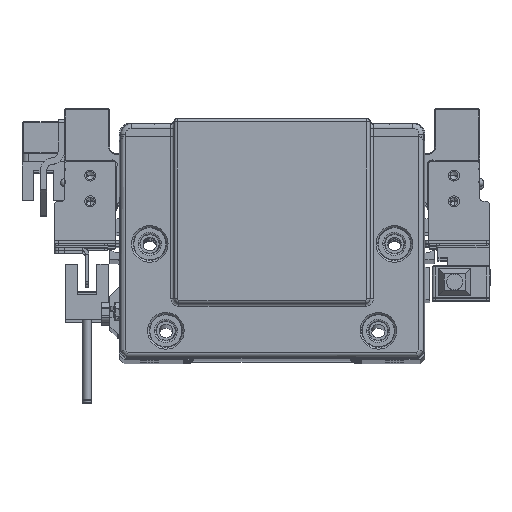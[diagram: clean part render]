
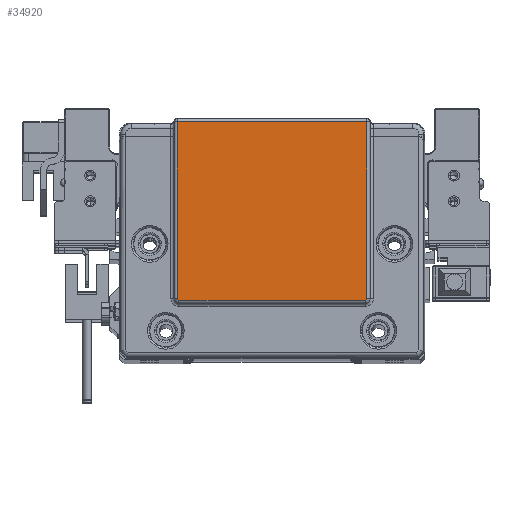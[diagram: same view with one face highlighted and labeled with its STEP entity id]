
A CAD part, top view. The second image highlights one B-rep face of the part: STEP entity #34920.
In plain terms, the highlighted planar face has unit normal (0, 0, 1) as drawn and (0, 0, -1) by its records, which use the part's own axes.
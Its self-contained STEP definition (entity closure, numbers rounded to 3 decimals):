
#779 = DIRECTION ( 'NONE',  ( -1., 0., 0. ) ) ;
#802 = CARTESIAN_POINT ( 'NONE',  ( -29.294, -19.08, -2. ) ) ;
#2013 = CARTESIAN_POINT ( 'NONE',  ( -29.435, -18.801, -2. ) ) ;
#3183 = CARTESIAN_POINT ( 'NONE',  ( -28.935, -19.232, -2. ) ) ;
#3542 = CARTESIAN_POINT ( 'NONE',  ( 29.268, -19.105, -2. ) ) ;
#4314 = CARTESIAN_POINT ( 'NONE',  ( 29.399, -18.919, -2. ) ) ;
#9228 = CARTESIAN_POINT ( 'NONE',  ( 29.354, -19.006, -2. ) ) ;
#9497 = ORIENTED_EDGE ( 'NONE', *, *, #23639, .T. ) ;
#10006 = EDGE_CURVE ( 'NONE', #54061, #18232, #61392, .T. ) ;
#10420 = CARTESIAN_POINT ( 'NONE',  ( 29.397, -18.923, -2. ) ) ;
#10924 = ORIENTED_EDGE ( 'NONE', *, *, #18657, .F. ) ;
#11924 = CARTESIAN_POINT ( 'NONE',  ( 28.935, -19.232, -2. ) ) ;
#12973 = CARTESIAN_POINT ( 'NONE',  ( -29.36, -18.998, -2. ) ) ;
#13722 = ORIENTED_EDGE ( 'NONE', *, *, #70362, .T. ) ;
#14264 = EDGE_LOOP ( 'NONE', ( #9497, #51127, #48508, #65430, #13722, #10924 ) ) ;
#14973 = CARTESIAN_POINT ( 'NONE',  ( -29.226, -19.14, -2. ) ) ;
#15319 = CARTESIAN_POINT ( 'NONE',  ( 29.247, -19.124, -2. ) ) ;
#15711 = CARTESIAN_POINT ( 'NONE',  ( 29.296, -19.079, -2. ) ) ;
#16111 = CARTESIAN_POINT ( 'NONE',  ( 29.435, -18.785, -2. ) ) ;
#18232 = VERTEX_POINT ( 'NONE', #45031 ) ;
#18657 = EDGE_CURVE ( 'NONE', #38832, #26460, #32303, .T. ) ;
#19037 = PLANE ( 'NONE',  #40669 ) ;
#19458 = CARTESIAN_POINT ( 'NONE',  ( -29.266, -19.109, -2. ) ) ;
#21397 = CARTESIAN_POINT ( 'NONE',  ( 29.378, -18.966, -2. ) ) ;
#21800 = CARTESIAN_POINT ( 'NONE',  ( 29.286, -19.089, -2. ) ) ;
#22181 = CARTESIAN_POINT ( 'NONE',  ( 29.283, -19.092, -2. ) ) ;
#23639 = EDGE_CURVE ( 'NONE', #38832, #54061, #54941, .T. ) ;
#23728 = CARTESIAN_POINT ( 'NONE',  ( 29.435, 0., -2. ) ) ;
#25113 = CARTESIAN_POINT ( 'NONE',  ( -29.326, -19.044, -2. ) ) ;
#25527 = CARTESIAN_POINT ( 'NONE',  ( -29.292, -19.083, -2. ) ) ;
#25859 = CARTESIAN_POINT ( 'NONE',  ( 29.003, -19.232, -2. ) ) ;
#26460 = VERTEX_POINT ( 'NONE', #42254 ) ;
#27118 = CARTESIAN_POINT ( 'NONE',  ( -29.209, -19.151, -2. ) ) ;
#27167 = DIRECTION ( 'NONE',  ( -1., 0., 0. ) ) ;
#27445 = CARTESIAN_POINT ( 'NONE',  ( 29.201, -19.157, -2. ) ) ;
#27501 = CARTESIAN_POINT ( 'NONE',  ( -29.151, -19.183, -2. ) ) ;
#29039 = CARTESIAN_POINT ( 'NONE',  ( 29.372, -18.977, -2. ) ) ;
#30084 = VECTOR ( 'NONE', #53698, 1000. ) ;
#31943 = CARTESIAN_POINT ( 'NONE',  ( 28.935, -19.232, -2. ) ) ;
#32303 = B_SPLINE_CURVE_WITH_KNOTS ( 'NONE', 3,
 ( #38870, #2013, #39273, #57886, #12973, #25113, #74523, #43735, #802, #25527, #50218, #44124, #19458, #14973, #27118, #46513, #64750, #27501, #35177, #71628, #76929, #33612, #52603, #77332, #3183 ),
 .UNSPECIFIED., .F., .F.,
 ( 4, 2, 1, 1, 1, 1, 2, 2, 2, 2, 2, 1, 2, 2, 4 ),
 ( 0., 0.25, 0.375, 0.437, 0.469, 0.484, 0.492, 0.5, 0.625, 0.687, 0.719, 0.734, 0.742, 0.75, 1. ),
 .UNSPECIFIED. ) ;
#33612 = CARTESIAN_POINT ( 'NONE',  ( -29.121, -19.196, -2. ) ) ;
#33937 = CARTESIAN_POINT ( 'NONE',  ( 29.395, -18.93, -2. ) ) ;
#34342 = CARTESIAN_POINT ( 'NONE',  ( 29.427, -18.849, -2. ) ) ;
#34920 = ADVANCED_FACE ( 'NONE', ( #43312 ), #19037, .T. ) ;
#35177 = CARTESIAN_POINT ( 'NONE',  ( -29.142, -19.188, -2. ) ) ;
#36313 = CARTESIAN_POINT ( 'NONE',  ( 0., 36.185, -2. ) ) ;
#38832 = VERTEX_POINT ( 'NONE', #78330 ) ;
#38870 = CARTESIAN_POINT ( 'NONE',  ( -29.435, -18.732, -2. ) ) ;
#39273 = CARTESIAN_POINT ( 'NONE',  ( -29.421, -18.866, -2. ) ) ;
#39685 = VECTOR ( 'NONE', #73586, 1000. ) ;
#40017 = CARTESIAN_POINT ( 'NONE',  ( 29.435, -18.732, -2. ) ) ;
#40398 = CARTESIAN_POINT ( 'NONE',  ( 29.312, -19.063, -2. ) ) ;
#40669 = AXIS2_PLACEMENT_3D ( 'NONE', #68022, #55454, #779 ) ;
#42254 = CARTESIAN_POINT ( 'NONE',  ( -28.935, -19.232, -2. ) ) ;
#42915 = LINE ( 'NONE', #68027, #60139 ) ;
#43312 = FACE_OUTER_BOUND ( 'NONE', #14264, .T. ) ;
#43735 = CARTESIAN_POINT ( 'NONE',  ( -29.299, -19.076, -2. ) ) ;
#43831 = EDGE_CURVE ( 'NONE', #18232, #66423, #53288, .T. ) ;
#44124 = CARTESIAN_POINT ( 'NONE',  ( -29.282, -19.093, -2. ) ) ;
#44260 = VECTOR ( 'NONE', #78435, 1000. ) ;
#45031 = CARTESIAN_POINT ( 'NONE',  ( 29.435, 36.185, -2. ) ) ;
#46513 = CARTESIAN_POINT ( 'NONE',  ( -29.18, -19.169, -2. ) ) ;
#48508 = ORIENTED_EDGE ( 'NONE', *, *, #43831, .T. ) ;
#49967 = CARTESIAN_POINT ( 'NONE',  ( 29.435, -18.732, -2. ) ) ;
#50218 = CARTESIAN_POINT ( 'NONE',  ( -29.289, -19.086, -2. ) ) ;
#50559 = CARTESIAN_POINT ( 'NONE',  ( 29.069, -19.218, -2. ) ) ;
#51127 = ORIENTED_EDGE ( 'NONE', *, *, #10006, .T. ) ;
#52547 = CARTESIAN_POINT ( 'NONE',  ( 29.386, -18.948, -2. ) ) ;
#52603 = CARTESIAN_POINT ( 'NONE',  ( -29.051, -19.224, -2. ) ) ;
#52935 = CARTESIAN_POINT ( 'NONE',  ( 29.288, -19.086, -2. ) ) ;
#53288 = LINE ( 'NONE', #23728, #30084 ) ;
#53323 = CARTESIAN_POINT ( 'NONE',  ( 29.343, -19.023, -2. ) ) ;
#53698 = DIRECTION ( 'NONE',  ( 0., -1., 0. ) ) ;
#54061 = VERTEX_POINT ( 'NONE', #59048 ) ;
#54941 = LINE ( 'NONE', #79658, #39685 ) ;
#55454 = DIRECTION ( 'NONE',  ( 0., 0., -1. ) ) ;
#57886 = CARTESIAN_POINT ( 'NONE',  ( -29.383, -18.956, -2. ) ) ;
#59048 = CARTESIAN_POINT ( 'NONE',  ( -29.435, 36.185, -2. ) ) ;
#59351 = VERTEX_POINT ( 'NONE', #11924 ) ;
#60139 = VECTOR ( 'NONE', #27167, 1000. ) ;
#61392 = LINE ( 'NONE', #36313, #44260 ) ;
#63952 = B_SPLINE_CURVE_WITH_KNOTS ( 'NONE', 3,
 ( #31943, #25859, #50559, #69188, #27445, #15319, #3542, #65899, #22181, #21800, #52935, #15711, #40398, #53323, #9228, #29039, #21397, #52547, #65081, #33937, #10420, #4314, #34342, #16111, #40017 ),
 .UNSPECIFIED., .F., .F.,
 ( 4, 2, 1, 1, 1, 1, 2, 2, 2, 2, 2, 1, 2, 2, 4 ),
 ( 0., 0.25, 0.375, 0.438, 0.469, 0.484, 0.492, 0.5, 0.625, 0.688, 0.719, 0.734, 0.742, 0.75, 1. ),
 .UNSPECIFIED. ) ;
#64750 = CARTESIAN_POINT ( 'NONE',  ( -29.169, -19.175, -2. ) ) ;
#65081 = CARTESIAN_POINT ( 'NONE',  ( 29.391, -18.939, -2. ) ) ;
#65430 = ORIENTED_EDGE ( 'NONE', *, *, #77833, .F. ) ;
#65899 = CARTESIAN_POINT ( 'NONE',  ( 29.279, -19.096, -2. ) ) ;
#66423 = VERTEX_POINT ( 'NONE', #49967 ) ;
#68022 = CARTESIAN_POINT ( 'NONE',  ( 0., 0., -2. ) ) ;
#68027 = CARTESIAN_POINT ( 'NONE',  ( 0., -19.232, -2. ) ) ;
#69188 = CARTESIAN_POINT ( 'NONE',  ( 29.158, -19.18, -2. ) ) ;
#70362 = EDGE_CURVE ( 'NONE', #59351, #26460, #42915, .T. ) ;
#71628 = CARTESIAN_POINT ( 'NONE',  ( -29.133, -19.192, -2. ) ) ;
#73586 = DIRECTION ( 'NONE',  ( 0., 1., 0. ) ) ;
#74523 = CARTESIAN_POINT ( 'NONE',  ( -29.308, -19.065, -2. ) ) ;
#76929 = CARTESIAN_POINT ( 'NONE',  ( -29.126, -19.195, -2. ) ) ;
#77332 = CARTESIAN_POINT ( 'NONE',  ( -28.988, -19.232, -2. ) ) ;
#77833 = EDGE_CURVE ( 'NONE', #59351, #66423, #63952, .T. ) ;
#78330 = CARTESIAN_POINT ( 'NONE',  ( -29.435, -18.732, -2. ) ) ;
#78435 = DIRECTION ( 'NONE',  ( 1., 0., 0. ) ) ;
#79658 = CARTESIAN_POINT ( 'NONE',  ( -29.435, 0., -2. ) ) ;
